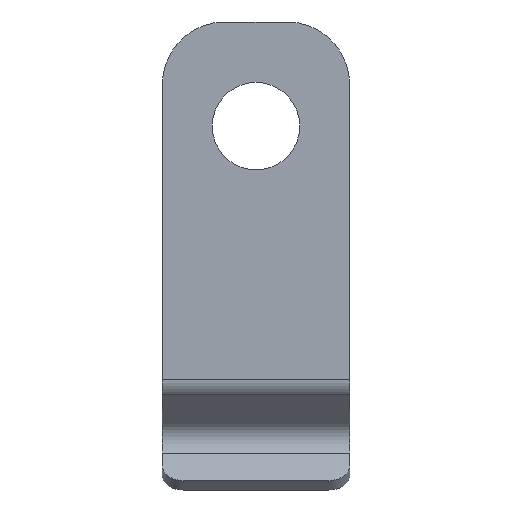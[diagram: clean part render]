
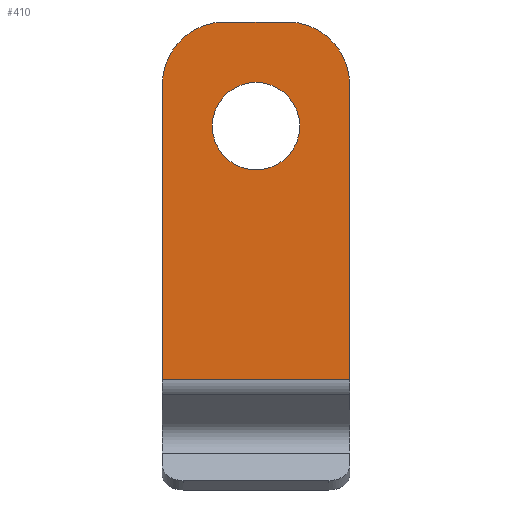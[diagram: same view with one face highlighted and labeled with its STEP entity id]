
A CAD part, left-side view. The second image highlights one B-rep face of the part: STEP entity #410.
In plain terms, the highlighted planar face has unit normal (-1, 0, 0).
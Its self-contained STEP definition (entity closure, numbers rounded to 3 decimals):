
#15=FACE_BOUND('',#66,.T.);
#19=PLANE('',#441);
#38=FACE_OUTER_BOUND('',#65,.T.);
#65=EDGE_LOOP('',(#291,#292,#293,#294,#295,#296));
#66=EDGE_LOOP('',(#297));
#95=LINE('',#626,#135);
#98=LINE('',#632,#138);
#99=LINE('',#634,#139);
#100=LINE('',#636,#140);
#135=VECTOR('',#494,1.5);
#138=VECTOR('',#499,7.086);
#139=VECTOR('',#500,4.5);
#140=VECTOR('',#501,7.086);
#173=CIRCLE('',#438,1.5);
#175=CIRCLE('',#442,1.5);
#176=CIRCLE('',#443,1.05);
#191=VERTEX_POINT('',#616);
#192=VERTEX_POINT('',#617);
#195=VERTEX_POINT('',#625);
#197=VERTEX_POINT('',#631);
#198=VERTEX_POINT('',#633);
#199=VERTEX_POINT('',#635);
#200=VERTEX_POINT('',#638);
#225=EDGE_CURVE('',#191,#192,#173,.T.);
#229=EDGE_CURVE('',#192,#195,#95,.T.);
#232=EDGE_CURVE('',#197,#191,#98,.T.);
#233=EDGE_CURVE('',#198,#197,#99,.T.);
#234=EDGE_CURVE('',#199,#198,#100,.T.);
#235=EDGE_CURVE('',#195,#199,#175,.T.);
#236=EDGE_CURVE('',#200,#200,#176,.T.);
#291=ORIENTED_EDGE('',*,*,#225,.F.);
#292=ORIENTED_EDGE('',*,*,#232,.F.);
#293=ORIENTED_EDGE('',*,*,#233,.F.);
#294=ORIENTED_EDGE('',*,*,#234,.F.);
#295=ORIENTED_EDGE('',*,*,#235,.F.);
#296=ORIENTED_EDGE('',*,*,#229,.F.);
#297=ORIENTED_EDGE('',*,*,#236,.T.);
#410=ADVANCED_FACE('',(#38,#15),#19,.F.);
#438=AXIS2_PLACEMENT_3D('',#618,#486,#487);
#441=AXIS2_PLACEMENT_3D('',#630,#497,#498);
#442=AXIS2_PLACEMENT_3D('',#637,#502,#503);
#443=AXIS2_PLACEMENT_3D('',#639,#504,#505);
#486=DIRECTION('center_axis',(1.,0.,0.));
#487=DIRECTION('ref_axis',(0.,0.707,0.707));
#494=DIRECTION('',(0.,-1.,0.));
#497=DIRECTION('center_axis',(1.,0.,0.));
#498=DIRECTION('ref_axis',(0.,0.,-1.));
#499=DIRECTION('',(0.,0.,1.));
#500=DIRECTION('',(0.,1.,0.));
#501=DIRECTION('',(0.,0.,-1.));
#502=DIRECTION('center_axis',(1.,0.,0.));
#503=DIRECTION('ref_axis',(0.,-0.707,0.707));
#504=DIRECTION('center_axis',(1.,0.,0.));
#505=DIRECTION('ref_axis',(0.,0.,1.));
#616=CARTESIAN_POINT('',(0.,2.25,7.086));
#617=CARTESIAN_POINT('',(0.,0.75,8.586));
#618=CARTESIAN_POINT('Origin',(0.,0.75,7.086));
#625=CARTESIAN_POINT('',(0.,-0.75,8.586));
#626=CARTESIAN_POINT('',(0.,-2.25,8.586));
#630=CARTESIAN_POINT('Origin',(0.,0.,
2.702));
#631=CARTESIAN_POINT('',(0.,2.25,0.));
#632=CARTESIAN_POINT('',(0.,2.25,8.586));
#633=CARTESIAN_POINT('',(0.,-2.25,0.));
#634=CARTESIAN_POINT('',(0.,0.,0.));
#635=CARTESIAN_POINT('',(0.,-2.25,7.086));
#636=CARTESIAN_POINT('',(0.,-2.25,-2.258));
#637=CARTESIAN_POINT('Origin',(0.,-0.75,7.086));
#638=CARTESIAN_POINT('',(0.,0.,7.136));
#639=CARTESIAN_POINT('Origin',(0.,0.,6.086));
